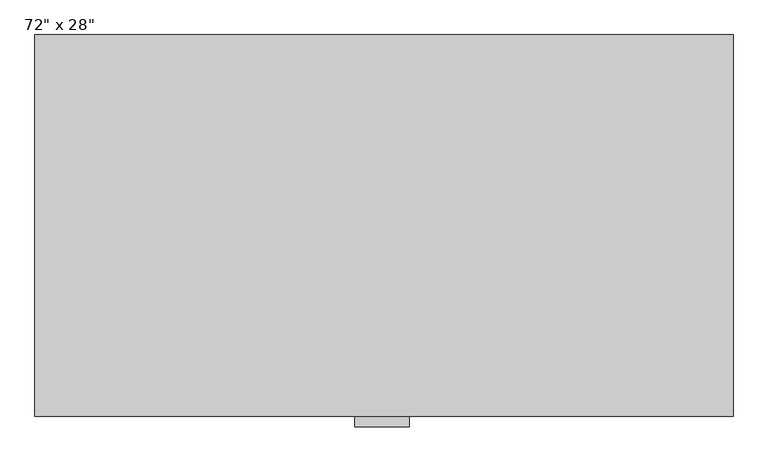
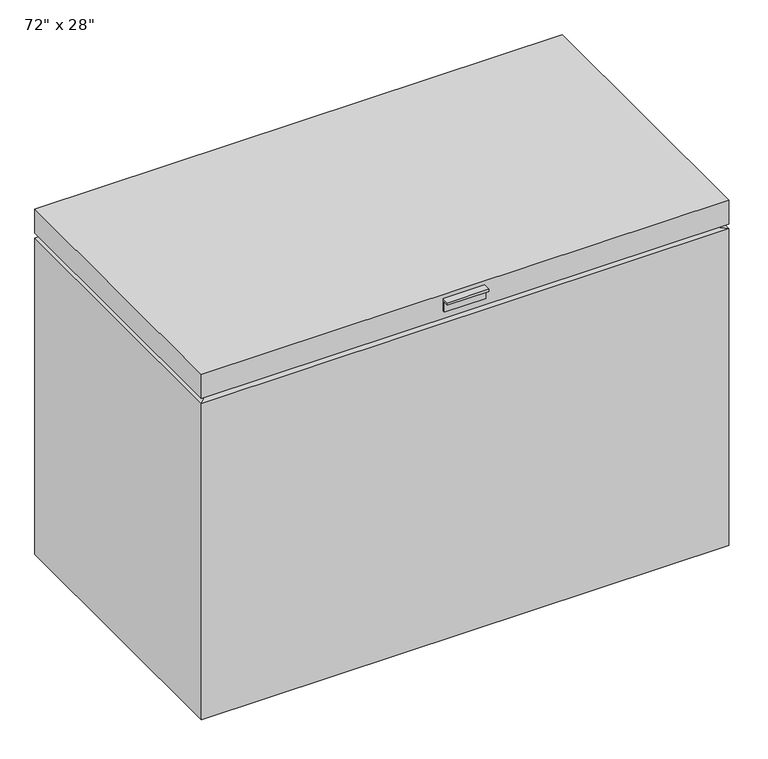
"""IFC4 building model written with IfcOpenShell, lengths in millimetres: proxy geometry."""

from ifc_helpers import new_model, si_unit, frame, origin, place, context, project, spatial, polyline, outline, extrude, faceted_brep, source, transform, mapped, element, save


def proxy_93d6ce39(model_context):
    return source(origin(), model_context, "Body", "SolidModel", [
        faceted_brep([(650.0, 355.6, 900.0), (-650.0, 355.6, 900.0), (-650.0, -355.6, 900.0), (650.0, -355.6, 900.0), (650.0, 355.6, 0.0), (650.0, -355.6, 0.0), (-650.0, -355.6, 0.0), (-650.0, 355.6, 0.0), (650.0, 355.6, 838.2), (630.95, 355.6, 838.2), (630.95, 355.6, 825.5), (650.0, 355.6, 825.5), (-650.0, 355.6, 825.5), (-630.95, 355.6, 825.5), (-630.95, 355.6, 838.2), (-650.0, 355.6, 838.2), (-650.0, -355.6, 838.2), (-650.0, -355.6, 825.5), (650.0, -355.6, 838.2), (650.0, -355.6, 825.5), (630.95, -336.55, 838.2), (630.95, -336.55, 825.5), (-630.95, -336.55, 838.2), (-630.95, -336.55, 825.5)], [[[0, 1, 2, 3]], [[4, 5, 6, 7]], [[1, 0, 8, 9, 10, 11, 4, 7, 12, 13, 14, 15]], [[2, 1, 15, 16]], [[7, 6, 17, 12]], [[3, 2, 16, 18]], [[6, 5, 19, 17]], [[0, 3, 18, 8]], [[5, 4, 11, 19]], [[18, 20, 9, 8]], [[10, 21, 19, 11]], [[9, 20, 21, 10]], [[20, 18, 16, 22]], [[19, 21, 23, 17]], [[21, 20, 22, 23]], [[22, 16, 15, 14]], [[17, 23, 13, 12]], [[23, 22, 14, 13]]]),
        extrude(outline(polyline([(-355.6, 890.475), (-355.6, 858.8538878), (-361.95, 858.8538878), (-361.95, 884.2538878), (-374.65, 884.2538878), (-374.65, 890.475), (-355.6, 890.475)])), frame((-54.3302756, 0.0, 0.0), z_axis=(1.0, 0.0, 0.0), x_axis=(0.0, 1.0, 0.0)), (0.0, 0.0, 1.0), 101.6),
    ])


if __name__ == "__main__":
    model = new_model("IFC4")
    model_context = context("Model", 3, world=origin())
    ifc_project = project(units=[si_unit("LENGTHUNIT", "METRE", prefix="MILLI")], contexts=[model_context])
    site = spatial("IfcSite", under=ifc_project)
    building = spatial("IfcBuilding", under=site)
    placement = place(None, origin())
    proxy_shape = proxy_93d6ce39(model_context)
    element("IfcBuildingElementProxy", 1, Name="_Produtos_Arq_Bib_Freezer_Chest_395 : 72\" x 28\"", ObjectType="_Produtos_Arq_Bib_Freezer_Chest_395 : 72\" x 28\"", at=placement, inside=building, context=model_context, shape_type="MappedRepresentation", body=[
        mapped(proxy_shape, transform((0.0, 0.0, 0.0), x_axis=(1.0, 0.0, 0.0), y_axis=(0.0, 1.0, 0.0), z_axis=(0.0, 0.0, 1.0))),
    ])
    save(model, "model.ifc")
